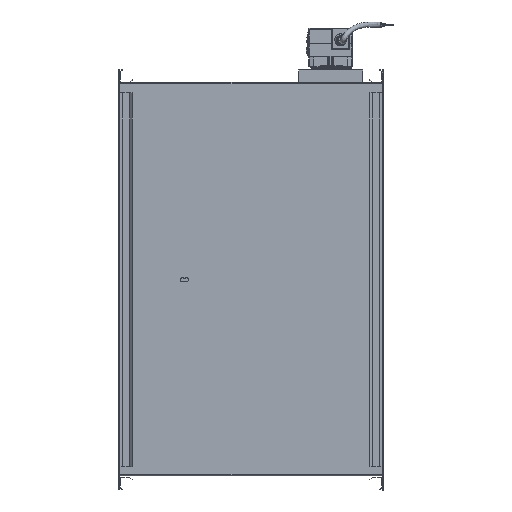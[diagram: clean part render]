
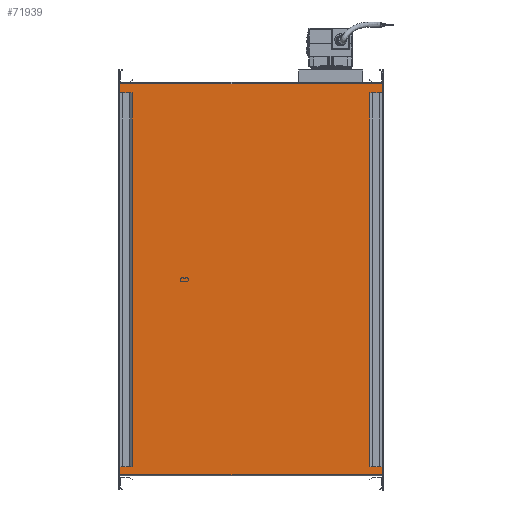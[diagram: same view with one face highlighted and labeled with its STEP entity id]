
A CAD part, front view. The second image highlights one B-rep face of the part: STEP entity #71939.
In plain terms, the highlighted planar face has unit normal (0, -1, 0).
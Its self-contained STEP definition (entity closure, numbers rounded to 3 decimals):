
#677 = ORIENTED_EDGE ( 'NONE', *, *, #64106, .T. ) ;
#3265 = ORIENTED_EDGE ( 'NONE', *, *, #61705, .T. ) ;
#7409 = VECTOR ( 'NONE', #23362, 1000. ) ;
#7672 = CARTESIAN_POINT ( 'NONE',  ( -244.423, -85.848, 802. ) ) ;
#12612 = EDGE_CURVE ( 'NONE', #12749, #31076, #13784, .T. ) ;
#12749 = VERTEX_POINT ( 'NONE', #79184 ) ;
#13784 = LINE ( 'NONE', #70403, #44041 ) ;
#21584 = PLANE ( 'NONE',  #50551 ) ;
#22511 = DIRECTION ( 'NONE',  ( 0., 0., -1. ) ) ;
#23362 = DIRECTION ( 'NONE',  ( 1., 0., 0. ) ) ;
#23516 = EDGE_LOOP ( 'NONE', ( #72424, #50663, #3265, #677 ) ) ;
#31076 = VERTEX_POINT ( 'NONE', #32446 ) ;
#32404 = CARTESIAN_POINT ( 'NONE',  ( -244.423, -85.848, 802. ) ) ;
#32446 = CARTESIAN_POINT ( 'NONE',  ( 155.577, -85.848, 802. ) ) ;
#35993 = DIRECTION ( 'NONE',  ( 0., 0., -1. ) ) ;
#37220 = DIRECTION ( 'NONE',  ( 1., 0., 0. ) ) ;
#44041 = VECTOR ( 'NONE', #35993, 1000. ) ;
#47536 = LINE ( 'NONE', #50709, #69172 ) ;
#49381 = DIRECTION ( 'NONE',  ( 0., 0., -1. ) ) ;
#50551 = AXIS2_PLACEMENT_3D ( 'NONE', #7672, #80053, #22511 ) ;
#50663 = ORIENTED_EDGE ( 'NONE', *, *, #59453, .F. ) ;
#50709 = CARTESIAN_POINT ( 'NONE',  ( -244.423, -85.848, 1398. ) ) ;
#58611 = CARTESIAN_POINT ( 'NONE',  ( -244.423, -85.848, 802. ) ) ;
#58855 = CARTESIAN_POINT ( 'NONE',  ( -244.423, -85.848, 1398. ) ) ;
#59453 = EDGE_CURVE ( 'NONE', #59953, #12749, #47536, .T. ) ;
#59953 = VERTEX_POINT ( 'NONE', #58855 ) ;
#61173 = LINE ( 'NONE', #32404, #72394 ) ;
#61705 = EDGE_CURVE ( 'NONE', #59953, #73114, #61173, .T. ) ;
#64106 = EDGE_CURVE ( 'NONE', #73114, #31076, #86466, .T. ) ;
#69172 = VECTOR ( 'NONE', #37220, 1000. ) ;
#70403 = CARTESIAN_POINT ( 'NONE',  ( 155.577, -85.848, 802. ) ) ;
#71939 = ADVANCED_FACE ( 'NONE', ( #85179 ), #21584, .T. ) ;
#72394 = VECTOR ( 'NONE', #49381, 1000. ) ;
#72424 = ORIENTED_EDGE ( 'NONE', *, *, #12612, .F. ) ;
#72909 = CARTESIAN_POINT ( 'NONE',  ( -244.423, -85.848, 802. ) ) ;
#73114 = VERTEX_POINT ( 'NONE', #72909 ) ;
#79184 = CARTESIAN_POINT ( 'NONE',  ( 155.577, -85.848, 1398. ) ) ;
#80053 = DIRECTION ( 'NONE',  ( 0., -1., 0. ) ) ;
#85179 = FACE_OUTER_BOUND ( 'NONE', #23516, .T. ) ;
#86466 = LINE ( 'NONE', #58611, #7409 ) ;
